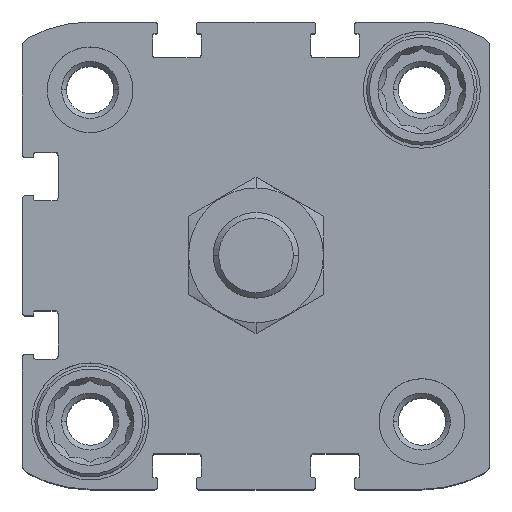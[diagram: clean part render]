
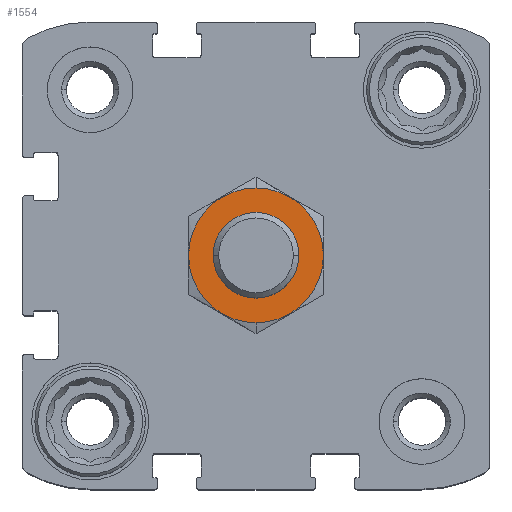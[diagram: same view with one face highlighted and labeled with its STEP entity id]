
A CAD part, top view. The second image highlights one B-rep face of the part: STEP entity #1554.
In plain terms, the highlighted planar face has unit normal (0, 0, 1).
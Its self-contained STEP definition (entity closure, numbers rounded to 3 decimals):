
#180 = EDGE_CURVE ( 'NONE', #8229, #3198, #5488, .T. ) ;
#224 = AXIS2_PLACEMENT_3D ( 'NONE', #9960, #11529, #16843 ) ;
#664 = ORIENTED_EDGE ( 'NONE', *, *, #16981, .T. ) ;
#753 = FACE_OUTER_BOUND ( 'NONE', #13373, .T. ) ;
#859 = EDGE_CURVE ( 'NONE', #3198, #8229, #10213, .T. ) ;
#966 = CIRCLE ( 'NONE', #6526, 6. ) ;
#973 = EDGE_LOOP ( 'NONE', ( #15228, #664 ) ) ;
#1554 = ADVANCED_FACE ( 'NONE', ( #753, #11282 ), #11531, .F. ) ;
#1670 = DIRECTION ( 'NONE',  ( 0., 0., -1. ) ) ;
#2610 = CIRCLE ( 'NONE', #7328, 6. ) ;
#2713 = DIRECTION ( 'NONE',  ( 0., 1., 0. ) ) ;
#3198 = VERTEX_POINT ( 'NONE', #11914 ) ;
#3434 = CARTESIAN_POINT ( 'NONE',  ( 0., 0., 19.5 ) ) ;
#4405 = DIRECTION ( 'NONE',  ( 0., 0., -1. ) ) ;
#5488 = CIRCLE ( 'NONE', #224, 9.45 ) ;
#5577 = CARTESIAN_POINT ( 'NONE',  ( 0., 0., 19.5 ) ) ;
#6449 = CARTESIAN_POINT ( 'NONE',  ( 0., -6., 19.5 ) ) ;
#6526 = AXIS2_PLACEMENT_3D ( 'NONE', #9883, #4405, #11278 ) ;
#6706 = DIRECTION ( 'NONE',  ( 0., 0., -1. ) ) ;
#7328 = AXIS2_PLACEMENT_3D ( 'NONE', #5577, #6706, #2713 ) ;
#7926 = CARTESIAN_POINT ( 'NONE',  ( 0., 0., 19.5 ) ) ;
#8229 = VERTEX_POINT ( 'NONE', #14853 ) ;
#8688 = CARTESIAN_POINT ( 'NONE',  ( 0., 6., 19.5 ) ) ;
#9883 = CARTESIAN_POINT ( 'NONE',  ( 0., 0., 19.5 ) ) ;
#9960 = CARTESIAN_POINT ( 'NONE',  ( 0., 0., 19.5 ) ) ;
#10213 = CIRCLE ( 'NONE', #14135, 9.45 ) ;
#11278 = DIRECTION ( 'NONE',  ( 0., 1., 0. ) ) ;
#11282 = FACE_BOUND ( 'NONE', #973, .T. ) ;
#11529 = DIRECTION ( 'NONE',  ( 0., 0., -1. ) ) ;
#11531 = PLANE ( 'NONE',  #12673 ) ;
#11914 = CARTESIAN_POINT ( 'NONE',  ( 0., 9.45, 19.5 ) ) ;
#11998 = ORIENTED_EDGE ( 'NONE', *, *, #859, .F. ) ;
#12673 = AXIS2_PLACEMENT_3D ( 'NONE', #3434, #14070, #15530 ) ;
#13373 = EDGE_LOOP ( 'NONE', ( #11998, #13705 ) ) ;
#13705 = ORIENTED_EDGE ( 'NONE', *, *, #180, .F. ) ;
#13945 = VERTEX_POINT ( 'NONE', #8688 ) ;
#14070 = DIRECTION ( 'NONE',  ( 0., 0., -1. ) ) ;
#14135 = AXIS2_PLACEMENT_3D ( 'NONE', #7926, #1670, #14817 ) ;
#14817 = DIRECTION ( 'NONE',  ( 0., 1., 0. ) ) ;
#14853 = CARTESIAN_POINT ( 'NONE',  ( 0., -9.45, 19.5 ) ) ;
#15228 = ORIENTED_EDGE ( 'NONE', *, *, #16004, .T. ) ;
#15530 = DIRECTION ( 'NONE',  ( 0., 1., 0. ) ) ;
#15896 = VERTEX_POINT ( 'NONE', #6449 ) ;
#16004 = EDGE_CURVE ( 'NONE', #15896, #13945, #2610, .T. ) ;
#16843 = DIRECTION ( 'NONE',  ( 0., 1., 0. ) ) ;
#16981 = EDGE_CURVE ( 'NONE', #13945, #15896, #966, .T. ) ;
